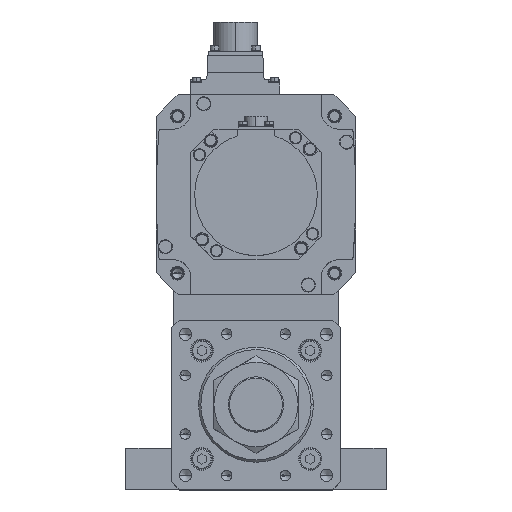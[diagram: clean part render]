
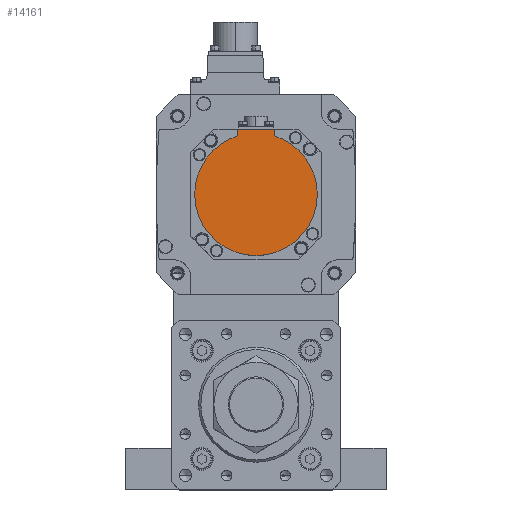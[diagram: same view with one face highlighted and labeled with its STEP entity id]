
A CAD part, top view. The second image highlights one B-rep face of the part: STEP entity #14161.
In plain terms, the highlighted planar face has unit normal (0, 0, 1) as drawn and (0, 0, -1) by its records, which use the part's own axes.
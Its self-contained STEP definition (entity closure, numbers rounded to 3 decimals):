
#921 = ORIENTED_EDGE ( 'NONE', *, *, #12677, .F. ) ;
#2391 = DIRECTION ( 'NONE',  ( 0., 0., 1. ) ) ;
#3446 = DIRECTION ( 'NONE',  ( 0., 0., 1. ) ) ;
#3879 = CARTESIAN_POINT ( 'NONE',  ( -12., -38.158, -132.5 ) ) ;
#4240 = FACE_OUTER_BOUND ( 'NONE', #27584, .T. ) ;
#5212 = CARTESIAN_POINT ( 'NONE',  ( -40., 0., -132.5 ) ) ;
#6679 = ORIENTED_EDGE ( 'NONE', *, *, #19315, .T. ) ;
#7359 = DIRECTION ( 'NONE',  ( 1., 0., 0. ) ) ;
#7775 = PLANE ( 'NONE',  #16297 ) ;
#9812 = CIRCLE ( 'NONE', #22943, 40. ) ;
#10393 = DIRECTION ( 'NONE',  ( 1., 0., 0. ) ) ;
#10608 = ORIENTED_EDGE ( 'NONE', *, *, #30132, .T. ) ;
#10767 = DIRECTION ( 'NONE',  ( 0., 1., 0. ) ) ;
#12596 = DIRECTION ( 'NONE',  ( -1., 0., 0. ) ) ;
#12677 = EDGE_CURVE ( 'NONE', #34328, #29044, #28724, .T. ) ;
#12954 = CARTESIAN_POINT ( 'NONE',  ( 0., -42.5, -132.5 ) ) ;
#13066 = CIRCLE ( 'NONE', #16345, 40. ) ;
#13895 = CIRCLE ( 'NONE', #33828, 40. ) ;
#14161 = ADVANCED_FACE ( 'NONE', ( #4240 ), #7775, .F. ) ;
#14207 = EDGE_CURVE ( 'NONE', #15616, #27656, #9812, .T. ) ;
#14575 = CARTESIAN_POINT ( 'NONE',  ( 0., 0., -132.5 ) ) ;
#15616 = VERTEX_POINT ( 'NONE', #30897 ) ;
#15911 = DIRECTION ( 'NONE',  ( 0., 0., 1. ) ) ;
#16039 = LINE ( 'NONE', #25421, #19043 ) ;
#16297 = AXIS2_PLACEMENT_3D ( 'NONE', #29415, #15911, #10393 ) ;
#16306 = CARTESIAN_POINT ( 'NONE',  ( 12., -1.249, -132.5 ) ) ;
#16310 = EDGE_CURVE ( 'NONE', #27656, #30250, #13066, .T. ) ;
#16345 = AXIS2_PLACEMENT_3D ( 'NONE', #34625, #26361, #7359 ) ;
#17273 = VERTEX_POINT ( 'NONE', #26038 ) ;
#18886 = ORIENTED_EDGE ( 'NONE', *, *, #14207, .F. ) ;
#19043 = VECTOR ( 'NONE', #33452, 1000. ) ;
#19315 = EDGE_CURVE ( 'NONE', #34328, #17273, #25879, .T. ) ;
#19633 = EDGE_CURVE ( 'NONE', #29044, #15616, #13895, .T. ) ;
#20998 = CARTESIAN_POINT ( 'NONE',  ( 12., -42.5, -132.5 ) ) ;
#22417 = CARTESIAN_POINT ( 'NONE',  ( 12., -38.158, -132.5 ) ) ;
#22943 = AXIS2_PLACEMENT_3D ( 'NONE', #35273, #2391, #35162 ) ;
#24894 = VECTOR ( 'NONE', #10767, 1000. ) ;
#25076 = ORIENTED_EDGE ( 'NONE', *, *, #16310, .F. ) ;
#25421 = CARTESIAN_POINT ( 'NONE',  ( -12., -40.329, -132.5 ) ) ;
#25879 = LINE ( 'NONE', #12954, #28860 ) ;
#26038 = CARTESIAN_POINT ( 'NONE',  ( -12., -42.5, -132.5 ) ) ;
#26361 = DIRECTION ( 'NONE',  ( 0., 0., 1. ) ) ;
#27584 = EDGE_LOOP ( 'NONE', ( #10608, #25076, #18886, #29724, #921, #6679 ) ) ;
#27656 = VERTEX_POINT ( 'NONE', #5212 ) ;
#28291 = DIRECTION ( 'NONE',  ( 1., 0., 0. ) ) ;
#28724 = LINE ( 'NONE', #16306, #24894 ) ;
#28860 = VECTOR ( 'NONE', #12596, 1000. ) ;
#29044 = VERTEX_POINT ( 'NONE', #22417 ) ;
#29415 = CARTESIAN_POINT ( 'NONE',  ( 0., -1.249, -132.5 ) ) ;
#29724 = ORIENTED_EDGE ( 'NONE', *, *, #19633, .F. ) ;
#30132 = EDGE_CURVE ( 'NONE', #17273, #30250, #16039, .T. ) ;
#30250 = VERTEX_POINT ( 'NONE', #3879 ) ;
#30897 = CARTESIAN_POINT ( 'NONE',  ( 40., 0., -132.5 ) ) ;
#33452 = DIRECTION ( 'NONE',  ( 0., 1., 0. ) ) ;
#33828 = AXIS2_PLACEMENT_3D ( 'NONE', #14575, #3446, #28291 ) ;
#34328 = VERTEX_POINT ( 'NONE', #20998 ) ;
#34625 = CARTESIAN_POINT ( 'NONE',  ( 0., 0., -132.5 ) ) ;
#35162 = DIRECTION ( 'NONE',  ( 1., 0., 0. ) ) ;
#35273 = CARTESIAN_POINT ( 'NONE',  ( 0., 0., -132.5 ) ) ;
